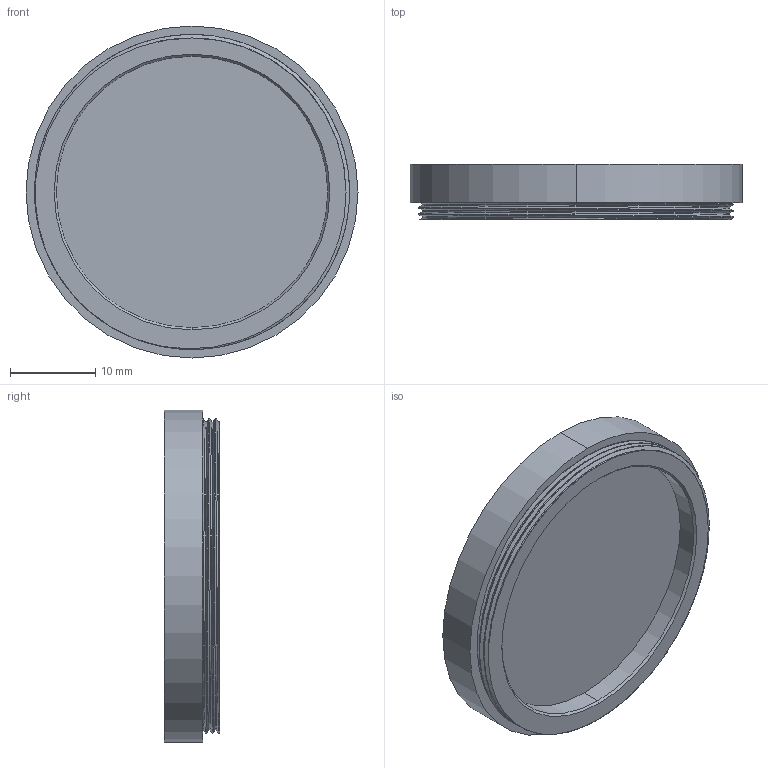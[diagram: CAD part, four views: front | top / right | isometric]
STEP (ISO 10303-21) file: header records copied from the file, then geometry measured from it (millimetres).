
FILE_DESCRIPTION (( 'STEP AP214' ), '1' );
FILE_NAME ('M37 x P0.75.STEP', '2023-01-19T08:17:56', ( '' ), ( '' ), 'SwSTEP 2.0', 'SolidWorks 2021', '' );
FILE_SCHEMA (( 'AUTOMOTIVE_DESIGN' ));
Length unit declared in the file: millimetre
Products named in the file (1): M37 x P0.75
Bounding box: 39 x 6.5 x 39 mm (x, y, z)
Volume: 1916.2 mm3; surface area: 4913.2 mm2
Topology: 3 solids, 3 shells, 45 faces, 103 edges, 68 vertices
Faces by surface type: cylinder 24, plane 11, bspline 8, cone 2
Entity records: 2805 total; most frequent: CARTESIAN_POINT 1834, ORIENTED_EDGE 206, DIRECTION 170, EDGE_CURVE 103, AXIS2_PLACEMENT_3D 72, VERTEX_POINT 68, EDGE_LOOP 53, FACE_OUTER_BOUND 45
